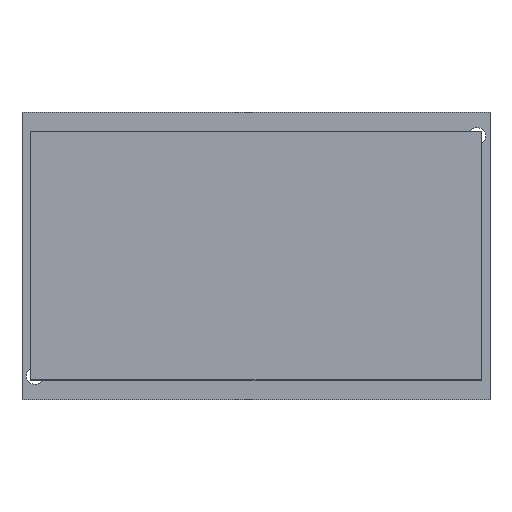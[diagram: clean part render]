
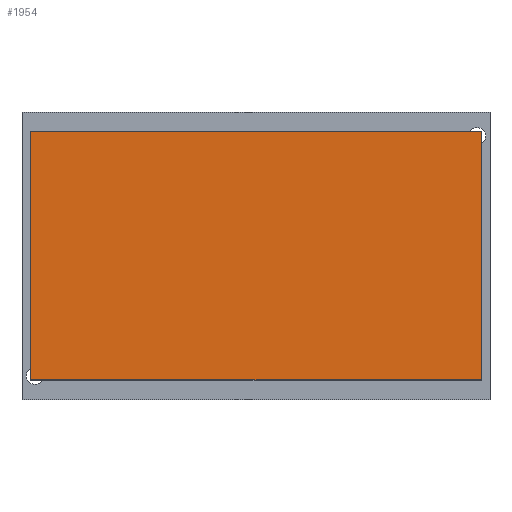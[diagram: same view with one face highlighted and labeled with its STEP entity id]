
A CAD part, top view. The second image highlights one B-rep face of the part: STEP entity #1954.
In plain terms, the highlighted planar face has unit normal (0, 0, 1) as drawn and (0, 0, -1) by its records, which use the part's own axes.
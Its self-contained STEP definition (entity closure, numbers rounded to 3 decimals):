
#733 = PLANE('',#734);
#734 = AXIS2_PLACEMENT_3D('',#735,#736,#737);
#735 = CARTESIAN_POINT('',(-21.1,5.7,2.));
#736 = DIRECTION('',(1.,0.,0.));
#737 = DIRECTION('',(0.,0.,-1.));
#853 = PLANE('',#854);
#854 = AXIS2_PLACEMENT_3D('',#855,#856,#857);
#855 = CARTESIAN_POINT('',(-0.4,5.7,2.));
#856 = DIRECTION('',(-1.,0.,0.));
#857 = DIRECTION('',(0.,0.,1.));
#917 = PLANE('',#918);
#918 = AXIS2_PLACEMENT_3D('',#919,#920,#921);
#919 = CARTESIAN_POINT('',(-21.1,-5.7,2.));
#920 = DIRECTION('',(0.,1.,0.));
#921 = DIRECTION('',(-1.,0.,0.));
#1242 = PLANE('',#1243);
#1243 = AXIS2_PLACEMENT_3D('',#1244,#1245,#1246);
#1244 = CARTESIAN_POINT('',(-21.1,5.7,2.));
#1245 = DIRECTION('',(0.,-1.,0.));
#1246 = DIRECTION('',(1.,0.,0.));
#1433 = VERTEX_POINT('',#1434);
#1434 = CARTESIAN_POINT('',(-21.1,5.7,0.));
#1455 = EDGE_CURVE('',#1433,#1456,#1458,.T.);
#1456 = VERTEX_POINT('',#1457);
#1457 = CARTESIAN_POINT('',(-21.1,-5.7,0.));
#1458 = SURFACE_CURVE('',#1459,(#1463,#1470),.PCURVE_S1.);
#1459 = LINE('',#1460,#1461);
#1460 = CARTESIAN_POINT('',(-21.1,5.7,0.));
#1461 = VECTOR('',#1462,1.);
#1462 = DIRECTION('',(0.,-1.,0.));
#1463 = PCURVE('',#733,#1464);
#1464 = DEFINITIONAL_REPRESENTATION('',(#1465),#1469);
#1465 = LINE('',#1466,#1467);
#1466 = CARTESIAN_POINT('',(2.,0.));
#1467 = VECTOR('',#1468,1.);
#1468 = DIRECTION('',(0.,-1.));
#1469 = ( GEOMETRIC_REPRESENTATION_CONTEXT(2) 
PARAMETRIC_REPRESENTATION_CONTEXT() REPRESENTATION_CONTEXT('2D SPACE',''
  ) );
#1470 = PCURVE('',#1471,#1476);
#1471 = PLANE('',#1472);
#1472 = AXIS2_PLACEMENT_3D('',#1473,#1474,#1475);
#1473 = CARTESIAN_POINT('',(0.,0.,0.));
#1474 = DIRECTION('',(0.,0.,1.));
#1475 = DIRECTION('',(1.,0.,0.));
#1476 = DEFINITIONAL_REPRESENTATION('',(#1477),#1481);
#1477 = LINE('',#1478,#1479);
#1478 = CARTESIAN_POINT('',(-21.1,5.7));
#1479 = VECTOR('',#1480,1.);
#1480 = DIRECTION('',(0.,-1.));
#1481 = ( GEOMETRIC_REPRESENTATION_CONTEXT(2) 
PARAMETRIC_REPRESENTATION_CONTEXT() REPRESENTATION_CONTEXT('2D SPACE',''
  ) );
#1577 = EDGE_CURVE('',#1456,#1578,#1580,.T.);
#1578 = VERTEX_POINT('',#1579);
#1579 = CARTESIAN_POINT('',(-0.4,-5.7,0.));
#1580 = SURFACE_CURVE('',#1581,(#1585,#1592),.PCURVE_S1.);
#1581 = LINE('',#1582,#1583);
#1582 = CARTESIAN_POINT('',(-21.1,-5.7,0.));
#1583 = VECTOR('',#1584,1.);
#1584 = DIRECTION('',(1.,0.,0.));
#1585 = PCURVE('',#917,#1586);
#1586 = DEFINITIONAL_REPRESENTATION('',(#1587),#1591);
#1587 = LINE('',#1588,#1589);
#1588 = CARTESIAN_POINT('',(0.,-2.));
#1589 = VECTOR('',#1590,1.);
#1590 = DIRECTION('',(-1.,0.));
#1591 = ( GEOMETRIC_REPRESENTATION_CONTEXT(2) 
PARAMETRIC_REPRESENTATION_CONTEXT() REPRESENTATION_CONTEXT('2D SPACE',''
  ) );
#1592 = PCURVE('',#1471,#1593);
#1593 = DEFINITIONAL_REPRESENTATION('',(#1594),#1598);
#1594 = LINE('',#1595,#1596);
#1595 = CARTESIAN_POINT('',(-21.1,-5.7));
#1596 = VECTOR('',#1597,1.);
#1597 = DIRECTION('',(1.,0.));
#1598 = ( GEOMETRIC_REPRESENTATION_CONTEXT(2) 
PARAMETRIC_REPRESENTATION_CONTEXT() REPRESENTATION_CONTEXT('2D SPACE',''
  ) );
#1794 = EDGE_CURVE('',#1578,#1795,#1797,.T.);
#1795 = VERTEX_POINT('',#1796);
#1796 = CARTESIAN_POINT('',(-0.4,5.7,0.));
#1797 = SURFACE_CURVE('',#1798,(#1802,#1809),.PCURVE_S1.);
#1798 = LINE('',#1799,#1800);
#1799 = CARTESIAN_POINT('',(-0.4,5.7,0.));
#1800 = VECTOR('',#1801,1.);
#1801 = DIRECTION('',(0.,1.,0.));
#1802 = PCURVE('',#853,#1803);
#1803 = DEFINITIONAL_REPRESENTATION('',(#1804),#1808);
#1804 = LINE('',#1805,#1806);
#1805 = CARTESIAN_POINT('',(-2.,0.));
#1806 = VECTOR('',#1807,1.);
#1807 = DIRECTION('',(0.,1.));
#1808 = ( GEOMETRIC_REPRESENTATION_CONTEXT(2) 
PARAMETRIC_REPRESENTATION_CONTEXT() REPRESENTATION_CONTEXT('2D SPACE',''
  ) );
#1809 = PCURVE('',#1471,#1810);
#1810 = DEFINITIONAL_REPRESENTATION('',(#1811),#1815);
#1811 = LINE('',#1812,#1813);
#1812 = CARTESIAN_POINT('',(-0.4,5.7));
#1813 = VECTOR('',#1814,1.);
#1814 = DIRECTION('',(0.,1.));
#1815 = ( GEOMETRIC_REPRESENTATION_CONTEXT(2) 
PARAMETRIC_REPRESENTATION_CONTEXT() REPRESENTATION_CONTEXT('2D SPACE',''
  ) );
#1934 = EDGE_CURVE('',#1795,#1433,#1935,.T.);
#1935 = SURFACE_CURVE('',#1936,(#1940,#1947),.PCURVE_S1.);
#1936 = LINE('',#1937,#1938);
#1937 = CARTESIAN_POINT('',(-21.1,5.7,0.));
#1938 = VECTOR('',#1939,1.);
#1939 = DIRECTION('',(-1.,0.,0.));
#1940 = PCURVE('',#1242,#1941);
#1941 = DEFINITIONAL_REPRESENTATION('',(#1942),#1946);
#1942 = LINE('',#1943,#1944);
#1943 = CARTESIAN_POINT('',(0.,-2.));
#1944 = VECTOR('',#1945,1.);
#1945 = DIRECTION('',(-1.,0.));
#1946 = ( GEOMETRIC_REPRESENTATION_CONTEXT(2) 
PARAMETRIC_REPRESENTATION_CONTEXT() REPRESENTATION_CONTEXT('2D SPACE',''
  ) );
#1947 = PCURVE('',#1471,#1948);
#1948 = DEFINITIONAL_REPRESENTATION('',(#1949),#1953);
#1949 = LINE('',#1950,#1951);
#1950 = CARTESIAN_POINT('',(-21.1,5.7));
#1951 = VECTOR('',#1952,1.);
#1952 = DIRECTION('',(-1.,0.));
#1953 = ( GEOMETRIC_REPRESENTATION_CONTEXT(2) 
PARAMETRIC_REPRESENTATION_CONTEXT() REPRESENTATION_CONTEXT('2D SPACE',''
  ) );
#1954 = ADVANCED_FACE('',(#1955),#1471,.F.);
#1955 = FACE_BOUND('',#1956,.T.);
#1956 = EDGE_LOOP('',(#1957,#1958,#1959,#1960));
#1957 = ORIENTED_EDGE('',*,*,#1455,.F.);
#1958 = ORIENTED_EDGE('',*,*,#1934,.F.);
#1959 = ORIENTED_EDGE('',*,*,#1794,.F.);
#1960 = ORIENTED_EDGE('',*,*,#1577,.F.);
